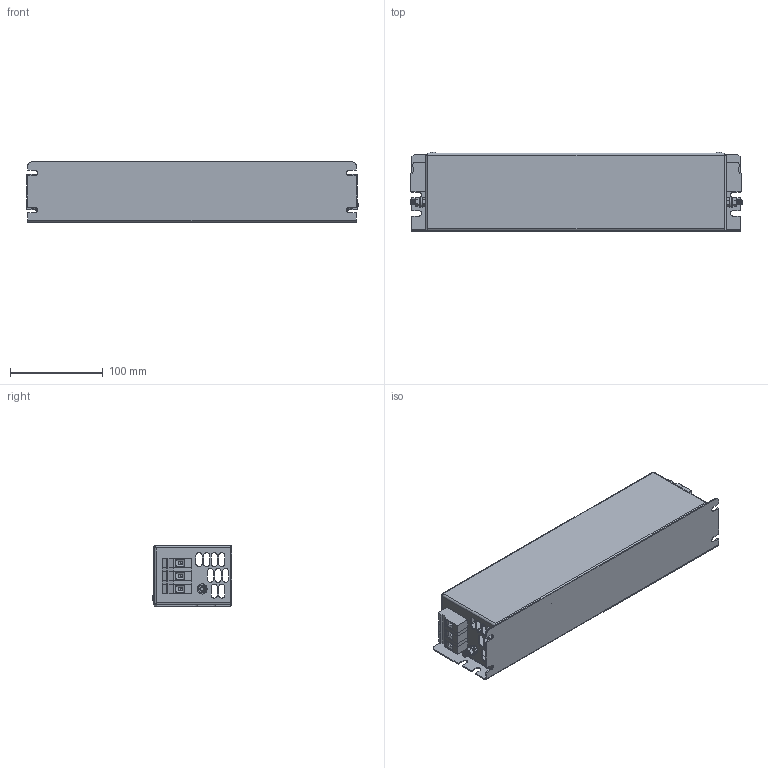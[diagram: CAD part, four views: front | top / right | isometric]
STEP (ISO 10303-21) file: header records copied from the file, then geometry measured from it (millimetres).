
FILE_DESCRIPTION (( 'STEP AP203' ), '1' );
FILE_NAME ('NF-KC-DAR2-25-3.STEP', '2025-09-25T14:31:02', ( '' ), ( '' ), 'SwSTEP 2.0', 'SolidWorks 2017', '' );
FILE_SCHEMA (( 'CONFIG_CONTROL_DESIGN' ));
Length unit declared in the file: millimetre
Products named in the file (11): 3.5mm Rivet; NF-KC-DAR2-25 lid; VDFK6x3 with spacer; NF-KC-DAR2-25 case; hex nut style 1_am_B18.2.4.1M - Hex nut, Style 1,  M5 x 0.8 --D-N; NF-KC-DAR2-25-3; M5x13 Earth post; hex screw_am (dont use)_B18.6.7M - M5 x 0.8 x 13 Indented HHMS --13S; flat washer narrow_am_B18.22M - Plain washer, 5 mm, narrow; VDFK-6 spacer; VDFK-6
Assembly tree (17 placements, depth 3):
  NF-KC-DAR2-25-3
    NF-KC-DAR2-25 case
    NF-KC-DAR2-25 lid
    M5x13 Earth post  x2
      hex screw_am (dont use)_B18.6.7M - M5 x 0.8 x 13 Indented HHMS --13S
      flat washer narrow_am_B18.22M - Plain washer, 5 mm, narrow
      hex nut style 1_am_B18.2.4.1M - Hex nut, Style 1,  M5 x 0.8 --D-N
    3.5mm Rivet  x2
    VDFK6x3 with spacer  x2
      VDFK-6 spacer
      VDFK-6
Bounding box: 358.6 x 86 x 65 mm (x, y, z)
Volume: 173839.7 mm3; surface area: 255342.6 mm2
Topology: 22 solids, 22 shells, 1128 faces, 2896 edges, 1842 vertices
Faces by surface type: plane 596, cylinder 348, cone 180, torus 4
Entity records: 21964 total; most frequent: DIRECTION 3671, CARTESIAN_POINT 3659, ORIENTED_EDGE 3458, EDGE_CURVE 1729, AXIS2_PLACEMENT_3D 1308, VERTEX_POINT 1104, VECTOR 1055, LINE 1055
